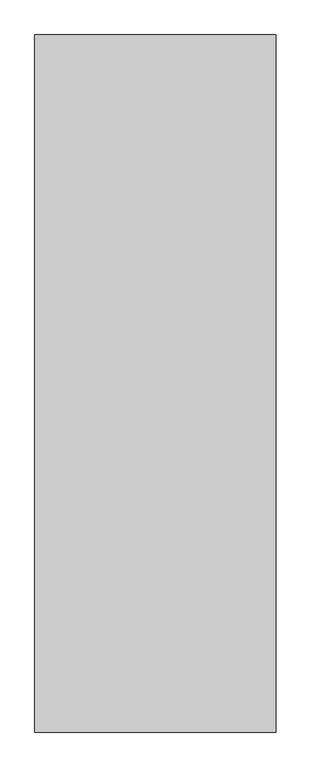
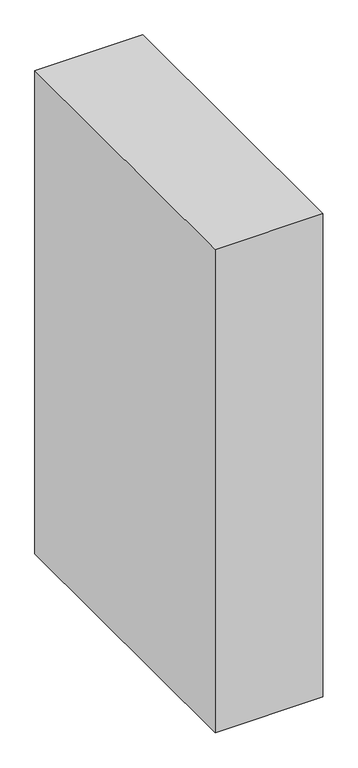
"""IFC4 building model written with IfcOpenShell, lengths in millimetres: proxy geometry, Modelos genéricos 1 : Modelos genéricos 1."""

from ifc_helpers import new_model, si_unit, origin, origin_with_axes, place, context, project, spatial, polyline, outline, extrude, source, transform, mapped, element, save


def generic_models_435f1a8f(model_context):
    return source(origin(), model_context, "Body", "SweptSolid", [
        extrude(outline(polyline([(-3138.8391622, -16347.1698092), (-3138.8391622, -17562.1698092), (-3558.8391622, -17562.1698092), (-3558.8391622, -16347.1698092), (-3138.8391622, -16347.1698092)])), origin_with_axes(), (0.0, 0.0, 1.0), 1990.0),
    ])


if __name__ == "__main__":
    model = new_model("IFC4")
    model_context = context("Model", 3, world=origin())
    ifc_project = project(units=[si_unit("LENGTHUNIT", "METRE", prefix="MILLI")], contexts=[model_context])
    site = spatial("IfcSite", under=ifc_project)
    building = spatial("IfcBuilding", under=site)
    placement = place(None, origin())
    generic_models_shape = generic_models_435f1a8f(model_context)
    element("IfcBuildingElementProxy", 1, Name="Modelos genéricos 1 : Modelos genéricos 1", ObjectType="Modelos genéricos 1 : Modelos genéricos 1", at=placement, inside=building, context=model_context, shape_type="MappedRepresentation", body=[
        mapped(generic_models_shape, transform((0.0, 0.0, 0.0), x_axis=(1.0, 0.0, 0.0), y_axis=(0.0, 1.0, 0.0), z_axis=(0.0, 0.0, 1.0))),
    ])
    save(model, "model.ifc")
